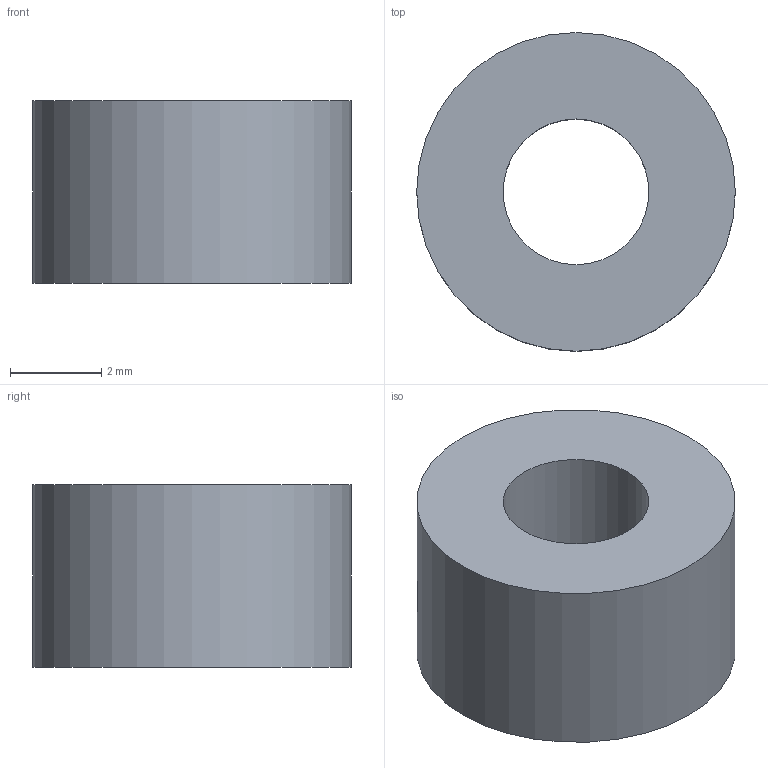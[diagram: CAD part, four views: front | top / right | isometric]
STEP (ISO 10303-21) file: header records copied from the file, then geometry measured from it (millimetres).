
FILE_DESCRIPTION(('Open CASCADE Model'),'2;1');
FILE_NAME('Open CASCADE Shape Model','2026-11-20T22:44:44',('Author'),( 'Open CASCADE'),'Open CASCADE STEP processor 7.8','Open CASCADE 7.8' ,'Unknown');
FILE_SCHEMA(('AUTOMOTIVE_DESIGN { 1 0 10303 214 1 1 1 1 }'));
Length unit declared in the file: millimetre
Products named in the file (1): Open CASCADE STEP translator 7.8 16
Bounding box: 7 x 7 x 4 mm (x, y, z)
Volume: 121.8 mm3; surface area: 189.1 mm2
Topology: 1 solids, 1 shells, 4 faces, 6 edges, 4 vertices
Faces by surface type: cylinder 2, plane 2
Full cylindrical faces by diameter (mm): 3.2 x1, 7 x1
Entity records: 186 total; most frequent: DIRECTION 32, CARTESIAN_POINT 27, ORIENTED_EDGE 12, PCURVE 12, DEFINITIONAL_REPRESENTATION 12, LINE 10, VECTOR 10, AXIS2_PLACEMENT_3D 9
